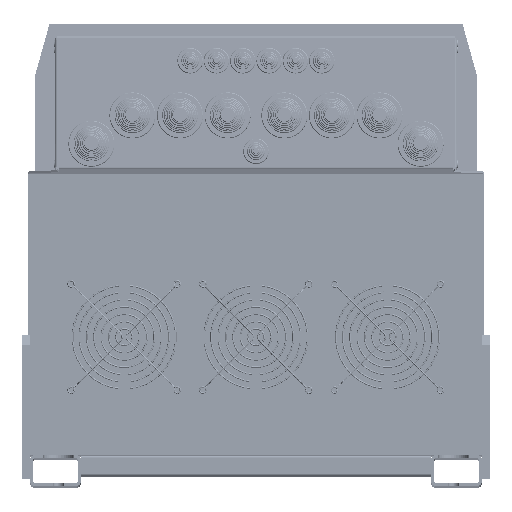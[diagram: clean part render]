
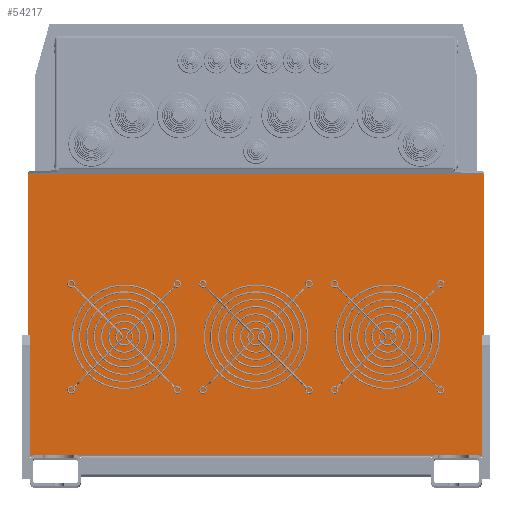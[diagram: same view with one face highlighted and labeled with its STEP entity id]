
A CAD part, top view. The second image highlights one B-rep face of the part: STEP entity #54217.
In plain terms, the highlighted planar face has unit normal (0, 0, 1).
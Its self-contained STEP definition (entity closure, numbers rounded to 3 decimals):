
#6537=LINE('',#95545,#12254);
#6541=LINE('',#95553,#12258);
#6544=LINE('',#95558,#12261);
#6545=LINE('',#95560,#12262);
#12254=VECTOR('',#72300,10.);
#12258=VECTOR('',#72308,10.);
#12261=VECTOR('',#72313,10.);
#12262=VECTOR('',#72316,10.);
#14593=PLANE('',#58602);
#18278=FACE_OUTER_BOUND('',#21882,.T.);
#21882=EDGE_LOOP('',(#49784,#49785,#49786,#49787));
#28452=VERTEX_POINT('',#95542);
#28453=VERTEX_POINT('',#95544);
#28455=VERTEX_POINT('',#95552);
#28456=VERTEX_POINT('',#95556);
#35668=EDGE_CURVE('',#28453,#28452,#6537,.T.);
#35672=EDGE_CURVE('',#28453,#28455,#6541,.T.);
#35675=EDGE_CURVE('',#28456,#28452,#6544,.T.);
#35676=EDGE_CURVE('',#28455,#28456,#6545,.T.);
#49784=ORIENTED_EDGE('',*,*,#35668,.T.);
#49785=ORIENTED_EDGE('',*,*,#35675,.F.);
#49786=ORIENTED_EDGE('',*,*,#35676,.F.);
#49787=ORIENTED_EDGE('',*,*,#35672,.F.);
#54217=ADVANCED_FACE('',(#18278),#14593,.T.);
#58602=AXIS2_PLACEMENT_3D('',#95561,#72317,#72318);
#72300=DIRECTION('',(-1.,0.,0.));
#72308=DIRECTION('',(0.,-1.,0.));
#72313=DIRECTION('',(0.,1.,0.));
#72316=DIRECTION('',(-1.,0.,0.));
#72317=DIRECTION('center_axis',(0.,0.,1.));
#72318=DIRECTION('ref_axis',(0.,-1.,0.));
#95542=CARTESIAN_POINT('',(-225.,293.183,-46.));
#95544=CARTESIAN_POINT('',(225.,293.183,-46.));
#95545=CARTESIAN_POINT('',(-112.5,293.183,-46.));
#95552=CARTESIAN_POINT('',(225.,15.,-46.));
#95553=CARTESIAN_POINT('',(225.,15.,-46.));
#95556=CARTESIAN_POINT('',(-225.,15.,-46.));
#95558=CARTESIAN_POINT('',(-225.,15.,-46.));
#95560=CARTESIAN_POINT('',(0.,15.,-46.));
#95561=CARTESIAN_POINT('Origin',(0.,295.185,-46.));
